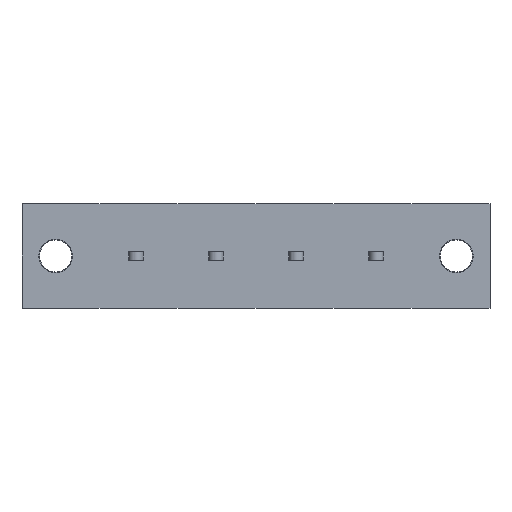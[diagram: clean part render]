
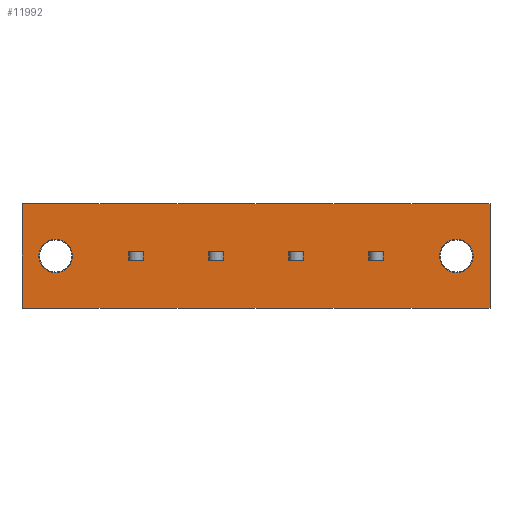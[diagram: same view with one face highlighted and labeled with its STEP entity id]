
A CAD part, front view. The second image highlights one B-rep face of the part: STEP entity #11992.
In plain terms, the highlighted planar face has unit normal (0, -1, 0).
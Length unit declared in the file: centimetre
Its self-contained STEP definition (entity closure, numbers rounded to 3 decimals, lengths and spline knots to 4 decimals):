
#948=VECTOR('',#13516,1.);
#1065=VECTOR('',#13797,1.);
#1070=VECTOR('',#13809,1.);
#1074=VECTOR('',#13827,1.);
#1076=VECTOR('',#13830,1.);
#1092=VECTOR('',#13855,1.);
#1093=VECTOR('',#13856,1.);
#1094=VECTOR('',#13857,1.);
#1095=VECTOR('',#13858,1.);
#1096=VECTOR('',#13859,1.);
#1097=VECTOR('',#13860,1.);
#1098=VECTOR('',#13861,1.);
#1099=VECTOR('',#13862,1.);
#1100=VECTOR('',#13863,1.);
#1101=VECTOR('',#13864,1.);
#1102=VECTOR('',#13865,1.);
#1103=VECTOR('',#13866,1.);
#1104=VECTOR('',#13867,1.);
#1105=VECTOR('',#13868,1.);
#1106=VECTOR('',#13869,1.);
#2334=LINE('',#16922,#948);
#2451=LINE('',#17303,#1065);
#2456=LINE('',#17318,#1070);
#2460=LINE('',#17332,#1074);
#2462=LINE('',#17336,#1076);
#2478=LINE('',#17375,#1092);
#2479=LINE('',#17378,#1093);
#2480=LINE('',#17380,#1094);
#2481=LINE('',#17382,#1095);
#2482=LINE('',#17383,#1096);
#2483=LINE('',#17386,#1097);
#2484=LINE('',#17388,#1098);
#2485=LINE('',#17390,#1099);
#2486=LINE('',#17391,#1100);
#2487=LINE('',#17394,#1101);
#2488=LINE('',#17396,#1102);
#2489=LINE('',#17398,#1103);
#2490=LINE('',#17399,#1104);
#2491=LINE('',#17401,#1105);
#2492=LINE('',#17403,#1106);
#3695=VERTEX_POINT('',#16920);
#3697=VERTEX_POINT('',#16923);
#3703=VERTEX_POINT('',#16937);
#3815=VERTEX_POINT('',#17304);
#3816=VERTEX_POINT('',#17305);
#3821=VERTEX_POINT('',#17319);
#3822=VERTEX_POINT('',#17333);
#3839=VERTEX_POINT('',#17374);
#3840=VERTEX_POINT('',#17376);
#3841=VERTEX_POINT('',#17377);
#3842=VERTEX_POINT('',#17379);
#3843=VERTEX_POINT('',#17381);
#3844=VERTEX_POINT('',#17384);
#3845=VERTEX_POINT('',#17385);
#3846=VERTEX_POINT('',#17387);
#3847=VERTEX_POINT('',#17389);
#3848=VERTEX_POINT('',#17392);
#3849=VERTEX_POINT('',#17393);
#3850=VERTEX_POINT('',#17395);
#3851=VERTEX_POINT('',#17397);
#3852=VERTEX_POINT('',#17400);
#3853=VERTEX_POINT('',#17402);
#4565=CIRCLE('',#20307,0.21);
#4606=CIRCLE('',#20431,0.21);
#5253=EDGE_CURVE('',#3697,#3695,#2334,.T.);
#5260=EDGE_CURVE('',#3703,#3703,#4565,.T.);
#5421=EDGE_CURVE('',#3815,#3816,#2451,.T.);
#5428=EDGE_CURVE('',#3821,#3815,#2456,.T.);
#5435=EDGE_CURVE('',#3822,#3821,#2460,.T.);
#5437=EDGE_CURVE('',#3816,#3822,#2462,.T.);
#5455=EDGE_CURVE('',#3839,#3839,#4606,.T.);
#5456=EDGE_CURVE('',#3840,#3841,#2478,.T.);
#5457=EDGE_CURVE('',#3841,#3842,#2479,.T.);
#5458=EDGE_CURVE('',#3842,#3843,#2480,.T.);
#5459=EDGE_CURVE('',#3843,#3840,#2481,.T.);
#5460=EDGE_CURVE('',#3844,#3845,#2482,.T.);
#5461=EDGE_CURVE('',#3845,#3846,#2483,.T.);
#5462=EDGE_CURVE('',#3846,#3847,#2484,.T.);
#5463=EDGE_CURVE('',#3847,#3844,#2485,.T.);
#5464=EDGE_CURVE('',#3848,#3849,#2486,.T.);
#5465=EDGE_CURVE('',#3849,#3850,#2487,.T.);
#5466=EDGE_CURVE('',#3850,#3851,#2488,.T.);
#5467=EDGE_CURVE('',#3851,#3848,#2489,.T.);
#5468=EDGE_CURVE('',#3852,#3697,#2490,.T.);
#5469=EDGE_CURVE('',#3853,#3695,#2491,.T.);
#5470=EDGE_CURVE('',#3853,#3852,#2492,.T.);
#7958=ORIENTED_EDGE('',*,*,#5260,.T.);
#7959=ORIENTED_EDGE('',*,*,#5455,.T.);
#7960=ORIENTED_EDGE('',*,*,#5428,.F.);
#7961=ORIENTED_EDGE('',*,*,#5435,.F.);
#7962=ORIENTED_EDGE('',*,*,#5437,.F.);
#7963=ORIENTED_EDGE('',*,*,#5421,.F.);
#7964=ORIENTED_EDGE('',*,*,#5456,.T.);
#7965=ORIENTED_EDGE('',*,*,#5457,.T.);
#7966=ORIENTED_EDGE('',*,*,#5458,.T.);
#7967=ORIENTED_EDGE('',*,*,#5459,.T.);
#7968=ORIENTED_EDGE('',*,*,#5460,.T.);
#7969=ORIENTED_EDGE('',*,*,#5461,.T.);
#7970=ORIENTED_EDGE('',*,*,#5462,.T.);
#7971=ORIENTED_EDGE('',*,*,#5463,.T.);
#7972=ORIENTED_EDGE('',*,*,#5464,.T.);
#7973=ORIENTED_EDGE('',*,*,#5465,.T.);
#7974=ORIENTED_EDGE('',*,*,#5466,.T.);
#7975=ORIENTED_EDGE('',*,*,#5467,.T.);
#7976=ORIENTED_EDGE('',*,*,#5468,.T.);
#7977=ORIENTED_EDGE('',*,*,#5253,.T.);
#7978=ORIENTED_EDGE('',*,*,#5469,.F.);
#7979=ORIENTED_EDGE('',*,*,#5470,.T.);
#10491=EDGE_LOOP('',(#7958));
#10492=EDGE_LOOP('',(#7959));
#10493=EDGE_LOOP('',(#7960,#7961,#7962,#7963));
#10494=EDGE_LOOP('',(#7964,#7965,#7966,#7967));
#10495=EDGE_LOOP('',(#7968,#7969,#7970,#7971));
#10496=EDGE_LOOP('',(#7972,#7973,#7974,#7975));
#10497=EDGE_LOOP('',(#7976,#7977,#7978,#7979));
#11259=FACE_BOUND('',#10491,.T.);
#11260=FACE_BOUND('',#10492,.T.);
#11261=FACE_BOUND('',#10493,.T.);
#11262=FACE_BOUND('',#10494,.T.);
#11263=FACE_BOUND('',#10495,.T.);
#11264=FACE_BOUND('',#10496,.T.);
#11265=FACE_BOUND('',#10497,.T.);
#11992=ADVANCED_FACE('',(#11259,#11260,#11261,#11262,#11263,#11264,#11265),
#12608,.T.);
#12608=PLANE('',#20430);
#13516=DIRECTION('',(0.,0.,1.));
#13525=DIRECTION('',(0.,1.,0.));
#13526=DIRECTION('',(0.21,0.,0.));
#13797=DIRECTION('',(0.,0.,1.));
#13809=DIRECTION('',(1.,0.,0.));
#13827=DIRECTION('',(0.,0.,-1.));
#13830=DIRECTION('',(-1.,0.,0.));
#13852=DIRECTION('',(0.,-1.,0.));
#13853=DIRECTION('',(0.,1.,0.));
#13854=DIRECTION('',(0.21,0.,0.));
#13855=DIRECTION('',(-1.,0.,0.));
#13856=DIRECTION('',(0.,0.,1.));
#13857=DIRECTION('',(1.,0.,0.));
#13858=DIRECTION('',(0.,0.,-1.));
#13859=DIRECTION('',(-1.,0.,0.));
#13860=DIRECTION('',(0.,0.,1.));
#13861=DIRECTION('',(1.,0.,0.));
#13862=DIRECTION('',(0.,0.,-1.));
#13863=DIRECTION('',(-1.,0.,0.));
#13864=DIRECTION('',(0.,0.,1.));
#13865=DIRECTION('',(1.,0.,0.));
#13866=DIRECTION('',(0.,0.,-1.));
#13867=DIRECTION('',(1.,0.,0.));
#13868=DIRECTION('',(1.,0.,0.));
#13869=DIRECTION('',(0.,0.,-1.));
#16920=CARTESIAN_POINT('',(4.,0.,0.65));
#16922=CARTESIAN_POINT('',(4.,0.,0.65));
#16923=CARTESIAN_POINT('',(4.,0.,-0.65));
#16936=CARTESIAN_POINT('',(3.58,0.,0.));
#16937=CARTESIAN_POINT('',(3.37,0.,0.));
#17303=CARTESIAN_POINT('',(-0.33,0.,-0.175));
#17304=CARTESIAN_POINT('',(-0.33,0.,-0.05));
#17305=CARTESIAN_POINT('',(-0.33,0.,0.05));
#17318=CARTESIAN_POINT('',(-0.63,0.,-0.05));
#17319=CARTESIAN_POINT('',(-0.51,0.,-0.05));
#17332=CARTESIAN_POINT('',(-0.51,0.,-0.175));
#17333=CARTESIAN_POINT('',(-0.51,0.,0.05));
#17336=CARTESIAN_POINT('',(-0.63,0.,0.05));
#17372=CARTESIAN_POINT('',(0.,0.,0.));
#17373=CARTESIAN_POINT('',(-1.42,0.,0.));
#17374=CARTESIAN_POINT('',(-1.63,0.,0.));
#17375=CARTESIAN_POINT('',(1.29,0.,-0.05));
#17376=CARTESIAN_POINT('',(2.67,0.,-0.05));
#17377=CARTESIAN_POINT('',(2.49,0.,-0.05));
#17378=CARTESIAN_POINT('',(2.49,0.,-0.175));
#17379=CARTESIAN_POINT('',(2.49,0.,0.05));
#17380=CARTESIAN_POINT('',(1.29,0.,0.05));
#17381=CARTESIAN_POINT('',(2.67,0.,0.05));
#17382=CARTESIAN_POINT('',(2.67,0.,-0.175));
#17383=CARTESIAN_POINT('',(0.79,0.,-0.05));
#17384=CARTESIAN_POINT('',(1.67,0.,-0.05));
#17385=CARTESIAN_POINT('',(1.49,0.,-0.05));
#17386=CARTESIAN_POINT('',(1.49,0.,-0.175));
#17387=CARTESIAN_POINT('',(1.49,0.,0.05));
#17388=CARTESIAN_POINT('',(0.79,0.,0.05));
#17389=CARTESIAN_POINT('',(1.67,0.,0.05));
#17390=CARTESIAN_POINT('',(1.67,0.,-0.175));
#17391=CARTESIAN_POINT('',(0.29,0.,-0.05));
#17392=CARTESIAN_POINT('',(0.67,0.,-0.05));
#17393=CARTESIAN_POINT('',(0.49,0.,-0.05));
#17394=CARTESIAN_POINT('',(0.49,0.,-0.175));
#17395=CARTESIAN_POINT('',(0.49,0.,0.05));
#17396=CARTESIAN_POINT('',(0.29,0.,0.05));
#17397=CARTESIAN_POINT('',(0.67,0.,0.05));
#17398=CARTESIAN_POINT('',(0.67,0.,-0.175));
#17399=CARTESIAN_POINT('',(-1.84,0.,-0.65));
#17400=CARTESIAN_POINT('',(-1.84,0.,-0.65));
#17401=CARTESIAN_POINT('',(0.,0.,0.65));
#17402=CARTESIAN_POINT('',(-1.84,0.,0.65));
#17403=CARTESIAN_POINT('',(-1.84,0.,0.65));
#20307=AXIS2_PLACEMENT_3D('',#16936,#13525,#13526);
#20430=AXIS2_PLACEMENT_3D('',#17372,#13852,$);
#20431=AXIS2_PLACEMENT_3D('',#17373,#13853,#13854);
